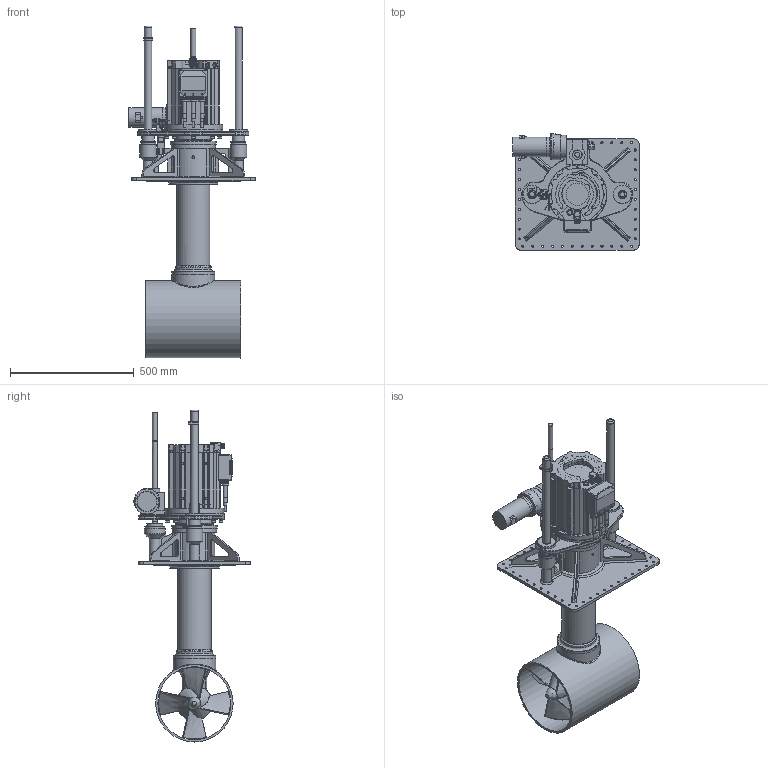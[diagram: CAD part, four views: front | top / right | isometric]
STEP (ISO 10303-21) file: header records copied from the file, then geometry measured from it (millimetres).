
FILE_DESCRIPTION(/* description */ (''),/* implementation_level */ '2;1');
FILE_NAME(/* name */ 'Q:\THRUSTERS\THRUSTER SALES & SUPPORT DOCS\THRUSTER Sales\E-V\E-0300-V\E-0300-V DEPLOYED.stp',/* time_stamp */ '2021-02-03T12:39:28+00:00',/* author */ ('Barney.Webborn'),/* organization */ (''),/* preprocessor_version */ 'ST-DEVELOPER v17.2',/* originating_system */ 'Autodesk Inventor 2019',/* authorisation */ '');
FILE_SCHEMA (('AUTOMOTIVE_DESIGN { 1 0 10303 214 3 1 1 }'));
Products named in the file (1): E-0300-V_Shrinkwrap_1
Bounding box: 510.2 x 469.5 x 1343.28 mm (x, y, z)
Volume: 20454774.4 mm3; surface area: 3933715.7 mm2
Topology: 18 solids, 18 shells, 3450 faces, 9265 edges, 6040 vertices
Faces by surface type: plane 1591, cylinder 1181, cone 371, torus 165, bspline 138, sphere 4
Full cylindrical faces by diameter (mm): 1.143 x17, 1.15 x3, 1.35 x3, 1.8 x2, 2 x8, 3.7 x1, 4 x2, 5 x24, 6 x1, 6.4 x3, 8 x5, 8.2 x2, 8.376 x20, 8.5 x62, 8.566 x2, 8.6 x6, 9 x1, 9.398 x3, 9.411 x3, 10 x9, 10.3 x6, 11 x20, 11.938 x3, 12 x1, 12.066 x3, 14 x1, 14.097 x3, 14.098 x3, 14.986 x3, 15 x2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
Entity records: 123818 total; most frequent: CARTESIAN_POINT 32803, ORIENTED_EDGE 18498, DIRECTION 18205, EDGE_CURVE 9249, AXIS2_PLACEMENT_3D 6845, VERTEX_POINT 6040, LINE 4515, VECTOR 4515
